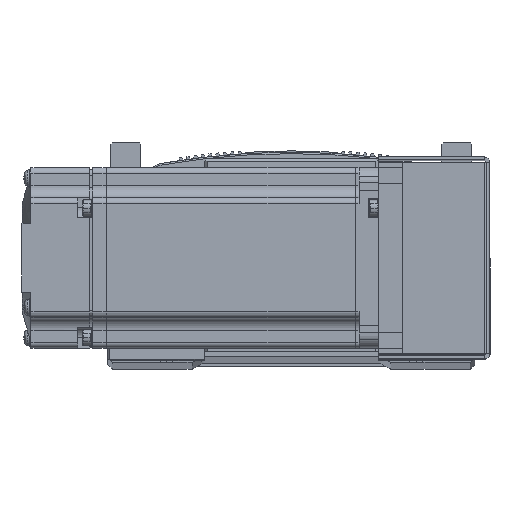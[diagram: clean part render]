
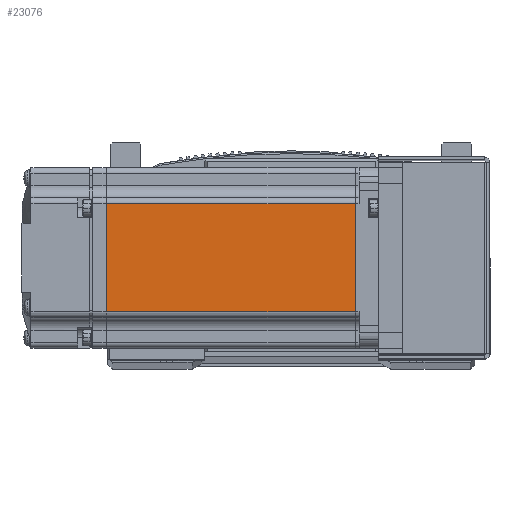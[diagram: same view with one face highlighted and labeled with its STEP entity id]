
A CAD part, top view. The second image highlights one B-rep face of the part: STEP entity #23076.
In plain terms, the highlighted planar face has unit normal (0, 0, 1) as drawn and (0, 1, 0) by its records, which use the part's own axes.
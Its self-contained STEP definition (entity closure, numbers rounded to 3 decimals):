
#1111 = ORIENTED_EDGE ( 'NONE', *, *, #62910, .T. ) ;
#1114 = ORIENTED_EDGE ( 'NONE', *, *, #62991, .T. ) ;
#1121 = ORIENTED_EDGE ( 'NONE', *, *, #62957, .F. ) ;
#1166 = ORIENTED_EDGE ( 'NONE', *, *, #62927, .T. ) ;
#10517 = CARTESIAN_POINT ( 'NONE',  ( -6.5, 30., 25. ) ) ;
#10518 = DIRECTION ( 'NONE',  ( 0., 0., 1. ) ) ;
#10540 = PLANE ( 'NONE',  #30330 ) ;
#10541 = DIRECTION ( 'NONE',  ( 0., 1., 0. ) ) ;
#12323 = FACE_OUTER_BOUND ( 'NONE', #16644, .T. ) ;
#16644 = EDGE_LOOP ( 'NONE', ( #1121, #1166, #1114, #1111 ) ) ;
#17571 = CARTESIAN_POINT ( 'NONE',  ( -90.45, 30., -18. ) ) ;
#17632 = CARTESIAN_POINT ( 'NONE',  ( -7.75, 30., -18. ) ) ;
#18717 = CARTESIAN_POINT ( 'NONE',  ( -90.45, 30., 18. ) ) ;
#18761 = CARTESIAN_POINT ( 'NONE',  ( -7.75, 30., 18. ) ) ;
#23076 = ADVANCED_FACE ( 'NONE', ( #12323 ), #10540, .T. ) ;
#30330 = AXIS2_PLACEMENT_3D ( 'NONE', #10517, #10541, #10518 ) ;
#34085 = VECTOR ( 'NONE', #71717, 1000. ) ;
#34088 = LINE ( 'NONE', #71691, #34085 ) ;
#34293 = LINE ( 'NONE', #71734, #34307 ) ;
#34307 = VECTOR ( 'NONE', #71740, 1000. ) ;
#34404 = VECTOR ( 'NONE', #71815, 1000. ) ;
#34424 = LINE ( 'NONE', #71892, #34439 ) ;
#34439 = VECTOR ( 'NONE', #71883, 1000. ) ;
#34497 = LINE ( 'NONE', #71811, #34404 ) ;
#62910 = EDGE_CURVE ( 'NONE', #80006, #79997, #34088, .T. ) ;
#62927 = EDGE_CURVE ( 'NONE', #86216, #86133, #34293, .T. ) ;
#62957 = EDGE_CURVE ( 'NONE', #86216, #79997, #34497, .T. ) ;
#62991 = EDGE_CURVE ( 'NONE', #86133, #80006, #34424, .T. ) ;
#71691 = CARTESIAN_POINT ( 'NONE',  ( -6.5, 30., 18. ) ) ;
#71717 = DIRECTION ( 'NONE',  ( 1., 0., 0. ) ) ;
#71734 = CARTESIAN_POINT ( 'NONE',  ( -6.5, 30., -18. ) ) ;
#71740 = DIRECTION ( 'NONE',  ( -1., 0., 0. ) ) ;
#71811 = CARTESIAN_POINT ( 'NONE',  ( -7.75, 30., 0. ) ) ;
#71815 = DIRECTION ( 'NONE',  ( 0., 0., 1. ) ) ;
#71883 = DIRECTION ( 'NONE',  ( 0., 0., 1. ) ) ;
#71892 = CARTESIAN_POINT ( 'NONE',  ( -90.45, 30., 0. ) ) ;
#79997 = VERTEX_POINT ( 'NONE', #18761 ) ;
#80006 = VERTEX_POINT ( 'NONE', #18717 ) ;
#86133 = VERTEX_POINT ( 'NONE', #17571 ) ;
#86216 = VERTEX_POINT ( 'NONE', #17632 ) ;
